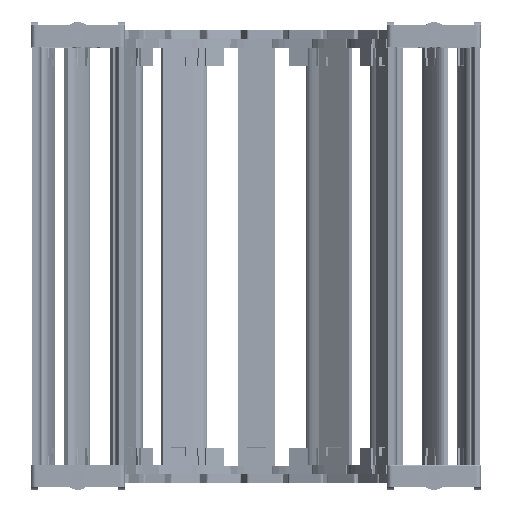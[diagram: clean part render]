
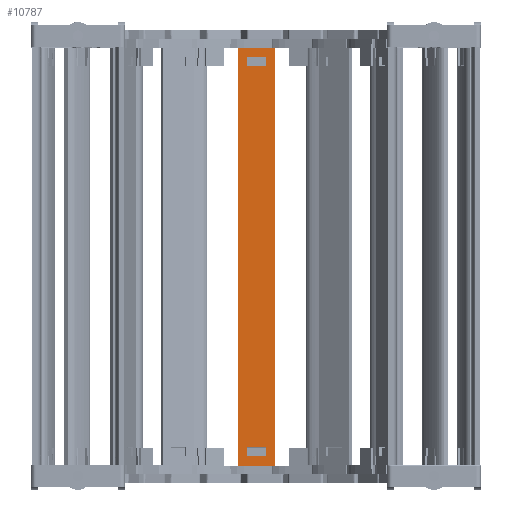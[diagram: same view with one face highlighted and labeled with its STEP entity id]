
A CAD part, top view. The second image highlights one B-rep face of the part: STEP entity #10787.
In plain terms, the highlighted planar face has unit normal (0, 0, 1) as drawn and (0, 1, 0) by its records, which use the part's own axes.
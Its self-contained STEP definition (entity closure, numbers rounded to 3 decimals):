
#10207=DIRECTION('',(0.,0.,1.));
#10208=VECTOR('',#10207,15.8);
#10209=CARTESIAN_POINT('',(161.24,1.5,-7.9));
#10210=LINE('',#10209,#10208);
#10211=DIRECTION('',(-1.,0.,0.));
#10212=VECTOR('',#10211,176.);
#10213=CARTESIAN_POINT('',(161.24,1.5,7.9));
#10214=LINE('',#10213,#10212);
#10215=DIRECTION('',(0.,0.,-1.));
#10216=VECTOR('',#10215,15.8);
#10217=CARTESIAN_POINT('',(-14.76,1.5,7.9));
#10218=LINE('',#10217,#10216);
#10219=DIRECTION('',(1.,0.,0.));
#10220=VECTOR('',#10219,3.648);
#10221=CARTESIAN_POINT('',(153.622,1.5,4.075));
#10222=LINE('',#10221,#10220);
#10223=DIRECTION('',(0.,0.,-1.));
#10224=VECTOR('',#10223,8.15);
#10225=CARTESIAN_POINT('',(157.27,1.5,4.075));
#10226=LINE('',#10225,#10224);
#10227=DIRECTION('',(-1.,0.,0.));
#10228=VECTOR('',#10227,3.648);
#10229=CARTESIAN_POINT('',(157.27,1.5,-4.075));
#10230=LINE('',#10229,#10228);
#10231=DIRECTION('',(0.,0.,-1.));
#10232=VECTOR('',#10231,8.15);
#10233=CARTESIAN_POINT('',(-7.142,1.5,4.075));
#10234=LINE('',#10233,#10232);
#10235=DIRECTION('',(-1.,0.,0.));
#10236=VECTOR('',#10235,3.648);
#10237=CARTESIAN_POINT('',(-7.142,1.5,-4.075));
#10238=LINE('',#10237,#10236);
#10239=DIRECTION('',(0.,0.,1.));
#10240=VECTOR('',#10239,8.15);
#10241=CARTESIAN_POINT('',(-10.79,1.5,-4.075));
#10242=LINE('',#10241,#10240);
#10243=DIRECTION('',(1.,0.,0.));
#10244=VECTOR('',#10243,3.648);
#10245=CARTESIAN_POINT('',(-10.79,1.5,4.075));
#10246=LINE('',#10245,#10244);
#10251=DIRECTION('',(-1.,0.,0.));
#10252=VECTOR('',#10251,176.);
#10253=CARTESIAN_POINT('',(161.24,1.5,-7.9));
#10254=LINE('',#10253,#10252);
#10372=DIRECTION('',(0.,0.,-1.));
#10373=VECTOR('',#10372,8.15);
#10374=CARTESIAN_POINT('',(153.622,1.5,4.075));
#10375=LINE('',#10374,#10373);
#10557=CARTESIAN_POINT('',(157.27,1.5,4.075));
#10558=VERTEX_POINT('',#10557);
#10559=CARTESIAN_POINT('',(153.622,1.5,4.075));
#10560=VERTEX_POINT('',#10559);
#10601=CARTESIAN_POINT('',(153.622,1.5,-4.075));
#10602=VERTEX_POINT('',#10601);
#10603=CARTESIAN_POINT('',(157.27,1.5,-4.075));
#10604=VERTEX_POINT('',#10603);
#10605=CARTESIAN_POINT('',(161.24,1.5,7.9));
#10607=VERTEX_POINT('',#10605);
#10609=CARTESIAN_POINT('',(161.24,1.5,-7.9));
#10610=VERTEX_POINT('',#10609);
#10633=CARTESIAN_POINT('',(-7.142,1.5,4.075));
#10634=CARTESIAN_POINT('',(-7.142,1.5,-4.075));
#10635=VERTEX_POINT('',#10633);
#10636=VERTEX_POINT('',#10634);
#10637=CARTESIAN_POINT('',(-10.79,1.5,-4.075));
#10638=VERTEX_POINT('',#10637);
#10639=CARTESIAN_POINT('',(-10.79,1.5,4.075));
#10640=VERTEX_POINT('',#10639);
#10641=CARTESIAN_POINT('',(-14.76,1.5,7.9));
#10642=VERTEX_POINT('',#10641);
#10645=CARTESIAN_POINT('',(-14.76,1.5,-7.9));
#10646=VERTEX_POINT('',#10645);
#10756=CARTESIAN_POINT('',(192.98,1.5,10.061));
#10757=DIRECTION('',(0.,-1.,0.));
#10758=DIRECTION('',(0.,0.,-1.));
#10759=AXIS2_PLACEMENT_3D('',#10756,#10757,#10758);
#10760=PLANE('',#10759);
#10761=ORIENTED_EDGE('',*,*,#10695,.T.);
#10762=ORIENTED_EDGE('',*,*,#10721,.T.);
#10763=ORIENTED_EDGE('',*,*,#10734,.T.);
#10765=ORIENTED_EDGE('',*,*,#10764,.F.);
#10766=EDGE_LOOP('',(#10761,#10762,#10763,#10765));
#10767=FACE_OUTER_BOUND('',#10766,.F.);
#10769=ORIENTED_EDGE('',*,*,#10768,.F.);
#10770=ORIENTED_EDGE('',*,*,#10658,.T.);
#10772=ORIENTED_EDGE('',*,*,#10771,.T.);
#10774=ORIENTED_EDGE('',*,*,#10773,.T.);
#10775=EDGE_LOOP('',(#10769,#10770,#10772,#10774));
#10776=FACE_BOUND('',#10775,.F.);
#10778=ORIENTED_EDGE('',*,*,#10777,.T.);
#10780=ORIENTED_EDGE('',*,*,#10779,.T.);
#10782=ORIENTED_EDGE('',*,*,#10781,.T.);
#10784=ORIENTED_EDGE('',*,*,#10783,.T.);
#10785=EDGE_LOOP('',(#10778,#10780,#10782,#10784));
#10786=FACE_BOUND('',#10785,.F.);
#10787=ADVANCED_FACE('',(#10767,#10776,#10786),#10760,.F.);
#10658=EDGE_CURVE('',#10560,#10558,#10222,.T.);
#10695=EDGE_CURVE('',#10610,#10607,#10210,.T.);
#10721=EDGE_CURVE('',#10607,#10642,#10214,.T.);
#10734=EDGE_CURVE('',#10642,#10646,#10218,.T.);
#10764=EDGE_CURVE('',#10610,#10646,#10254,.T.);
#10768=EDGE_CURVE('',#10560,#10602,#10375,.T.);
#10771=EDGE_CURVE('',#10558,#10604,#10226,.T.);
#10773=EDGE_CURVE('',#10604,#10602,#10230,.T.);
#10777=EDGE_CURVE('',#10635,#10636,#10234,.T.);
#10779=EDGE_CURVE('',#10636,#10638,#10238,.T.);
#10781=EDGE_CURVE('',#10638,#10640,#10242,.T.);
#10783=EDGE_CURVE('',#10640,#10635,#10246,.T.);
